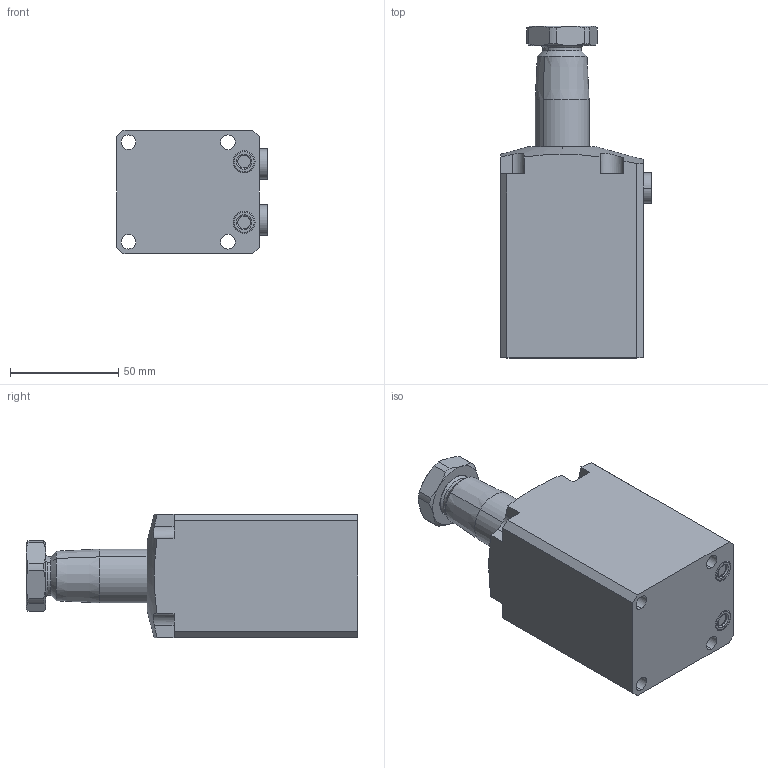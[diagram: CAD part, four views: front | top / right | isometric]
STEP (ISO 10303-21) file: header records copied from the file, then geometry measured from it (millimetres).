
FILE_DESCRIPTION(/* description */ (''),/* implementation_level */ '2;1');
FILE_NAME(/* name */ 'BRC06-RN45.stp',/* time_stamp */ '2025-01-05T09:17:16+08:00',/* author */ (''),/* organization */ (''),/* preprocessor_version */ 'ST-DEVELOPER v16.7',/* originating_system */ 'SIEMENS PLM Software NX 12.0',/* authorisation */ '');
FILE_SCHEMA (('AUTOMOTIVE_DESIGN { 1 0 10303 214 3 1 1 1 }'));
Length unit declared in the file: millimetre
Products named in the file (5): BRC06-RN45-03; BRC06-RN45-04; BRC06-RN45-02; BRC06-RN45-01; BRC06-RN45_stp
Assembly tree (5 placements, depth 2):
  BRC06-RN45_stp
    BRC06-RN45-01
    BRC06-RN45-02
    BRC06-RN45-04  x2
    BRC06-RN45-03
Bounding box: 69.8 x 153.4 x 57 mm (x, y, z)
Volume: 359483.1 mm3; surface area: 48615.4 mm2
Topology: 7 solids, 7 shells, 176 faces, 401 edges, 248 vertices
Faces by surface type: plane 68, cylinder 57, cone 34, torus 16, sphere 1
Full cylindrical faces by diameter (mm): 8.5 x2
Entity records: 4660 total; most frequent: CARTESIAN_POINT 957, DIRECTION 778, ORIENTED_EDGE 712, EDGE_CURVE 356, AXIS2_PLACEMENT_3D 313, VERTEX_POINT 222, EDGE_LOOP 180, ADVANCED_FACE 156
